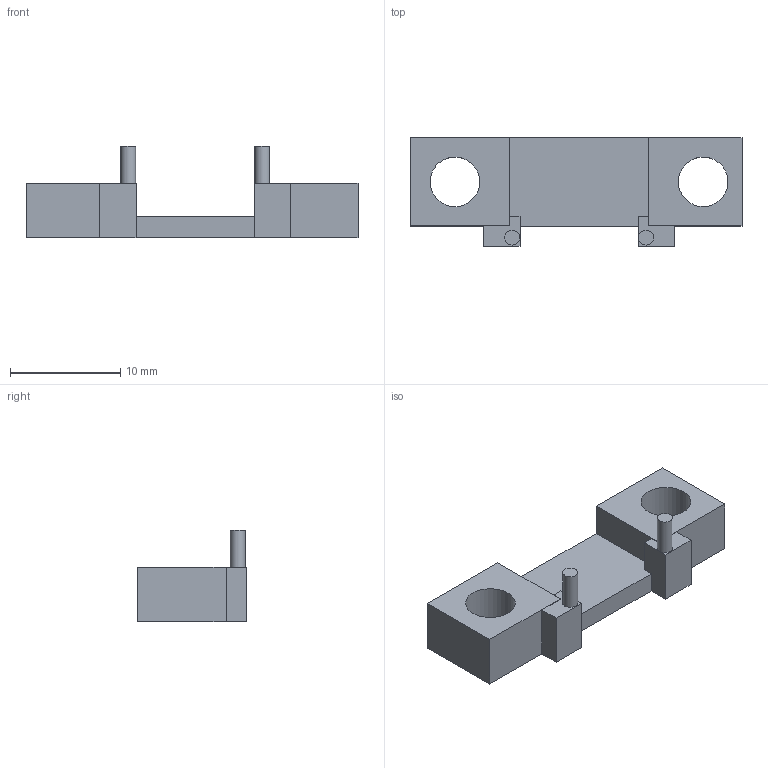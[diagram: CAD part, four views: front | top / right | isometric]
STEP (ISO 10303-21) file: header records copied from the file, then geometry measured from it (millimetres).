
FILE_DESCRIPTION(('Open CASCADE Model'),'2;1');
FILE_NAME('Open CASCADE Shape Model','2026-11-22T17:37:37',('Author'),( 'Open CASCADE'),'Open CASCADE STEP processor 7.9','Open CASCADE 7.9' ,'Unknown');
FILE_SCHEMA(('AUTOMOTIVE_DESIGN { 1 0 10303 214 1 1 1 1 }'));
Length unit declared in the file: millimetre
Products named in the file (1): Open CASCADE STEP translator 7.9 3
Bounding box: 30.09 x 9.83 x 8.29 mm (x, y, z)
Volume: 800.8 mm3; surface area: 1007.2 mm2
Topology: 1 solids, 1 shells, 28 faces, 72 edges, 48 vertices
Faces by surface type: plane 24, cylinder 4
Full cylindrical faces by diameter (mm): 1.36 x2, 4.5 x2
Entity records: 1798 total; most frequent: CARTESIAN_POINT 293, DIRECTION 282, LINE 200, VECTOR 200, ORIENTED_EDGE 144, PCURVE 144, DEFINITIONAL_REPRESENTATION 144, EDGE_CURVE 72
